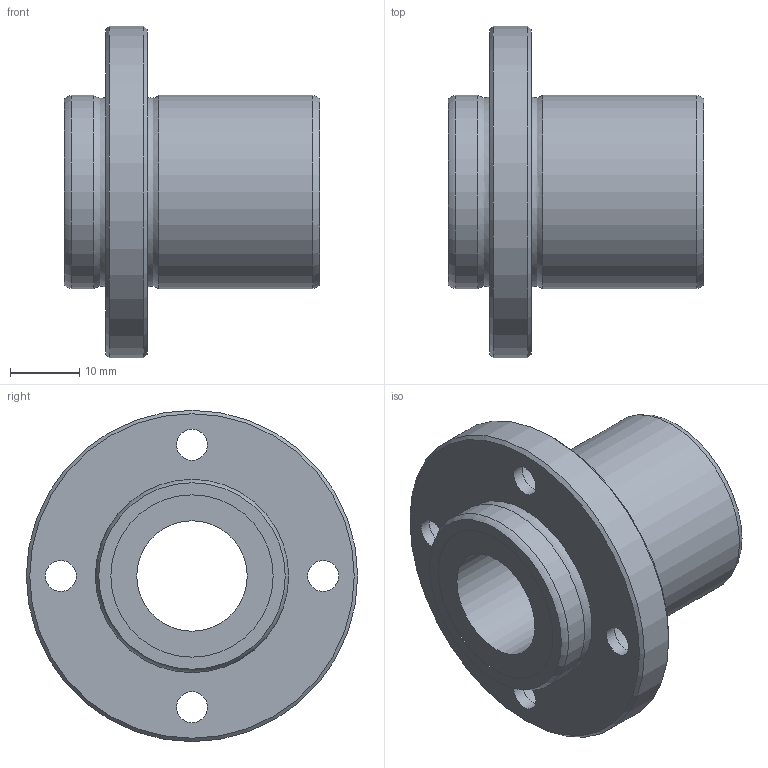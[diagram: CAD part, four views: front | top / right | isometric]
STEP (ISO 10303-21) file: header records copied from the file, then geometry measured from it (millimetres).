
FILE_DESCRIPTION((''),'2;1');
FILE_NAME('D:\製品 (図面)\カタログ用3D\リニアベアリング関連\STEP形式\LFB\LFB16.stp','2010-06-03T09:17:00',('Tsuchiya'),(''),'Autodesk Inventor 10','Autodesk Inventor 10','');
FILE_SCHEMA(('AUTOMOTIVE_DESIGN { 1 0 10303 214 1 1 1 1 }'));
Length unit declared in the file: millimetre
Products named in the file (1): LFB16
Bounding box: 37 x 48 x 48 mm (x, y, z)
Volume: 21321.2 mm3; surface area: 9012.8 mm2
Topology: 1 solids, 1 shells, 30 faces, 54 edges, 34 vertices
Faces by surface type: bspline 14, cylinder 6, plane 6, cone 2, torus 2
Full cylindrical faces by diameter (mm): 16 x1, 23.5 x2, 28 x2, 48 x1
Entity records: 907 total; most frequent: CARTESIAN_POINT 371, DIRECTION 102, ORIENTED_EDGE 68, EDGE_LOOP 68, AXIS2_PLACEMENT_3D 51, FACE_BOUND 38, VERTEX_POINT 34, CIRCLE 34
